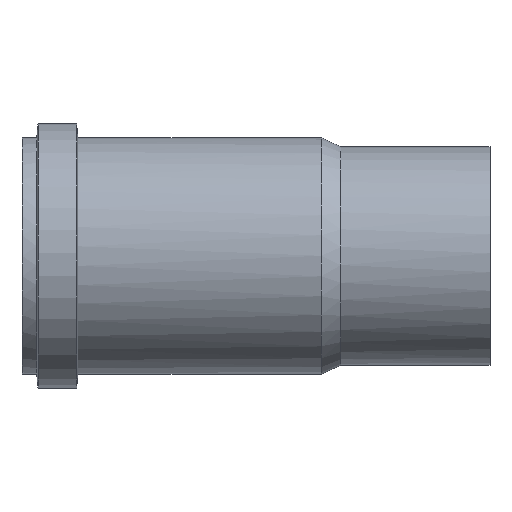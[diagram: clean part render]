
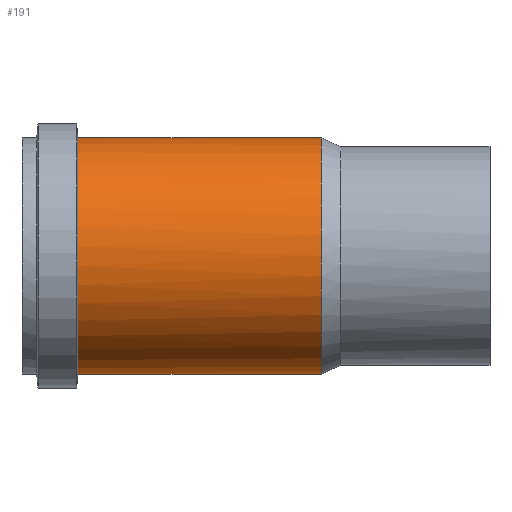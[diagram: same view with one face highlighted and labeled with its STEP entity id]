
A CAD part, top view. The second image highlights one B-rep face of the part: STEP entity #191.
In plain terms, the highlighted cylindrical face has radius 108.65 mm (diameter 217.3 mm), a full revolution.
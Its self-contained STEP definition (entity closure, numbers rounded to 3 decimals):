
#22=FACE_BOUND('',#55,.T.);
#38=FACE_OUTER_BOUND('',#54,.T.);
#54=EDGE_LOOP('',(#134));
#55=EDGE_LOOP('',(#135));
#86=CIRCLE('',#228,108.65);
#87=CIRCLE('',#229,108.65);
#102=VERTEX_POINT('',#327);
#103=VERTEX_POINT('',#329);
#118=EDGE_CURVE('',#102,#102,#86,.T.);
#119=EDGE_CURVE('',#103,#103,#87,.T.);
#134=ORIENTED_EDGE('',*,*,#118,.T.);
#135=ORIENTED_EDGE('',*,*,#119,.F.);
#166=CYLINDRICAL_SURFACE('',#227,108.65);
#191=ADVANCED_FACE('',(#38,#22),#166,.T.);
#227=AXIS2_PLACEMENT_3D('',#326,#261,#262);
#228=AXIS2_PLACEMENT_3D('',#328,#263,#264);
#229=AXIS2_PLACEMENT_3D('',#330,#265,#266);
#261=DIRECTION('center_axis',(1.,0.,0.));
#262=DIRECTION('ref_axis',(0.,1.,0.));
#263=DIRECTION('center_axis',(1.,0.,0.));
#264=DIRECTION('ref_axis',(0.,1.,0.));
#265=DIRECTION('center_axis',(1.,0.,0.));
#266=DIRECTION('ref_axis',(0.,1.,0.));
#326=CARTESIAN_POINT('Origin',(215.,0.,0.));
#327=CARTESIAN_POINT('',(51.312,-108.65,0.));
#328=CARTESIAN_POINT('Origin',(51.312,0.,0.));
#329=CARTESIAN_POINT('',(274.946,-108.65,0.));
#330=CARTESIAN_POINT('Origin',(274.946,0.,0.));
